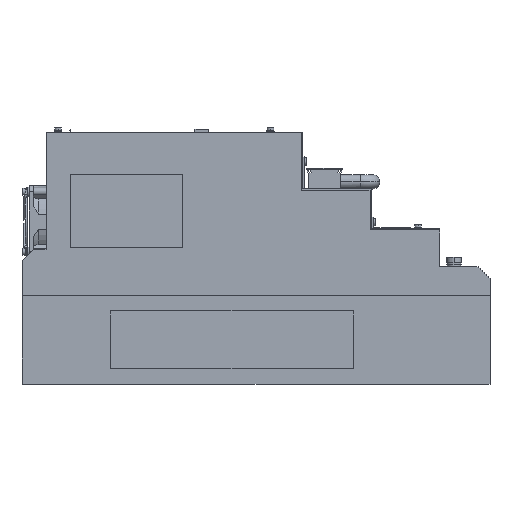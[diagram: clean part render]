
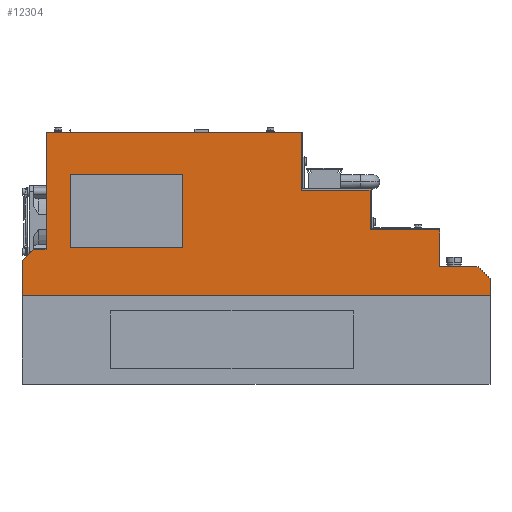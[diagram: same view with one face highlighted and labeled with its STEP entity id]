
A CAD part, left-side view. The second image highlights one B-rep face of the part: STEP entity #12304.
In plain terms, the highlighted planar face has unit normal (-1, 0, 0).
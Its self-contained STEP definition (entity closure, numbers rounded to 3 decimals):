
#2059 = CARTESIAN_POINT ( 'NONE',  ( -30., -340.5, 128.5 ) ) ;
#5751 = CARTESIAN_POINT ( 'NONE',  ( -30., -340.5, 98. ) ) ;
#6407 = DIRECTION ( 'NONE',  ( 0., 0., -1. ) ) ;
#6409 = VECTOR ( 'NONE', #6407, 1000. ) ;
#6412 = CARTESIAN_POINT ( 'NONE',  ( -30., -340.5, 612.55 ) ) ;
#6413 = LINE ( 'NONE', #6412, #6409 ) ;
#10174 = ORIENTED_EDGE ( 'NONE', *, *, #10685, .F. ) ;
#10176 = VERTEX_POINT ( 'NONE', #48753 ) ;
#10685 = EDGE_CURVE ( 'NONE', #10176, #31800, #49203, .T. ) ;
#10939 = EDGE_LOOP ( 'NONE', ( #10174, #31794, #30724, #15519 ) ) ;
#12304 = ADVANCED_FACE ( 'NONE', ( #50806, #50805 ), #50804, .F. ) ;
#13546 = ORIENTED_EDGE ( 'NONE', *, *, #13575, .T. ) ;
#13554 = VERTEX_POINT ( 'NONE', #58924 ) ;
#13564 = VERTEX_POINT ( 'NONE', #58916 ) ;
#13575 = EDGE_CURVE ( 'NONE', #13564, #13554, #58984, .T. ) ;
#14731 = EDGE_CURVE ( 'NONE', #55373, #13564, #59950, .T. ) ;
#14778 = EDGE_LOOP ( 'NONE', ( #14781, #13546, #31894, #31864, #31872, #31866, #31802, #31798, #31983, #31959, #31948, #31911, #40572, #36184 ) ) ;
#14781 = ORIENTED_EDGE ( 'NONE', *, *, #14731, .T. ) ;
#15329 = EDGE_CURVE ( 'NONE', #31800, #22922, #60568, .T. ) ;
#15519 = ORIENTED_EDGE ( 'NONE', *, *, #15329, .F. ) ;
#22212 = CARTESIAN_POINT ( 'NONE',  ( -30., -225.3, 210. ) ) ;
#22398 = DIRECTION ( 'NONE',  ( 0., -1., 0. ) ) ;
#22399 = VECTOR ( 'NONE', #22398, 1000. ) ;
#22400 = CARTESIAN_POINT ( 'NONE',  ( -30., -12.5, 210. ) ) ;
#22401 = LINE ( 'NONE', #22400, #22399 ) ;
#22408 = CARTESIAN_POINT ( 'NONE',  ( -30., -12.5, 210. ) ) ;
#22922 = VERTEX_POINT ( 'NONE', #66461 ) ;
#30724 = ORIENTED_EDGE ( 'NONE', *, *, #31749, .F. ) ;
#30871 = VERTEX_POINT ( 'NONE', #67580 ) ;
#31711 = VERTEX_POINT ( 'NONE', #67780 ) ;
#31749 = EDGE_CURVE ( 'NONE', #22922, #30871, #67851, .T. ) ;
#31794 = ORIENTED_EDGE ( 'NONE', *, *, #31797, .F. ) ;
#31797 = EDGE_CURVE ( 'NONE', #30871, #10176, #67906, .T. ) ;
#31798 = ORIENTED_EDGE ( 'NONE', *, *, #32011, .F. ) ;
#31800 = VERTEX_POINT ( 'NONE', #67899 ) ;
#31802 = ORIENTED_EDGE ( 'NONE', *, *, #31827, .F. ) ;
#31827 = EDGE_CURVE ( 'NONE', #31711, #31848, #67993, .T. ) ;
#31848 = VERTEX_POINT ( 'NONE', #68018 ) ;
#31863 = EDGE_CURVE ( 'NONE', #31895, #79304, #68065, .T. ) ;
#31864 = ORIENTED_EDGE ( 'NONE', *, *, #31863, .T. ) ;
#31866 = ORIENTED_EDGE ( 'NONE', *, *, #31867, .T. ) ;
#31867 = EDGE_CURVE ( 'NONE', #79816, #31848, #68055, .T. ) ;
#31872 = ORIENTED_EDGE ( 'NONE', *, *, #79855, .F. ) ;
#31894 = ORIENTED_EDGE ( 'NONE', *, *, #31903, .T. ) ;
#31895 = VERTEX_POINT ( 'NONE', #68122 ) ;
#31902 = VERTEX_POINT ( 'NONE', #68110 ) ;
#31903 = EDGE_CURVE ( 'NONE', #13554, #31895, #68109, .T. ) ;
#31905 = EDGE_CURVE ( 'NONE', #31902, #31929, #68103, .T. ) ;
#31911 = ORIENTED_EDGE ( 'NONE', *, *, #31905, .F. ) ;
#31929 = VERTEX_POINT ( 'NONE', #68184 ) ;
#31948 = ORIENTED_EDGE ( 'NONE', *, *, #31949, .T. ) ;
#31949 = EDGE_CURVE ( 'NONE', #31950, #31929, #68159, .T. ) ;
#31950 = VERTEX_POINT ( 'NONE', #68230 ) ;
#31959 = ORIENTED_EDGE ( 'NONE', *, *, #31966, .T. ) ;
#31966 = EDGE_CURVE ( 'NONE', #31988, #31950, #68197, .T. ) ;
#31982 = VERTEX_POINT ( 'NONE', #68231 ) ;
#31983 = ORIENTED_EDGE ( 'NONE', *, *, #31993, .F. ) ;
#31988 = VERTEX_POINT ( 'NONE', #68287 ) ;
#31993 = EDGE_CURVE ( 'NONE', #31988, #31982, #68285, .T. ) ;
#32011 = EDGE_CURVE ( 'NONE', #31982, #31711, #68314, .T. ) ;
#36184 = ORIENTED_EDGE ( 'NONE', *, *, #56405, .F. ) ;
#40572 = ORIENTED_EDGE ( 'NONE', *, *, #40599, .F. ) ;
#40599 = EDGE_CURVE ( 'NONE', #56280, #31902, #80861, .T. ) ;
#48753 = CARTESIAN_POINT ( 'NONE',  ( -30., -126.5, 114. ) ) ;
#49200 = DIRECTION ( 'NONE',  ( 0., 0., 1. ) ) ;
#49201 = VECTOR ( 'NONE', #49200, 1000. ) ;
#49202 = CARTESIAN_POINT ( 'NONE',  ( -30., -126.5, 114. ) ) ;
#49203 = LINE ( 'NONE', #49202, #49201 ) ;
#50800 = DIRECTION ( 'NONE',  ( 0., 1., 0. ) ) ;
#50801 = DIRECTION ( 'NONE',  ( 1., 0., 0. ) ) ;
#50802 = CARTESIAN_POINT ( 'NONE',  ( -30., -12.5, 612.55 ) ) ;
#50803 = AXIS2_PLACEMENT_3D ( 'NONE', #50802, #50801, #50800 ) ;
#50804 = PLANE ( 'NONE',  #50803 ) ;
#50805 = FACE_OUTER_BOUND ( 'NONE', #14778, .T. ) ;
#50806 = FACE_BOUND ( 'NONE', #10939, .T. ) ;
#53227 = DIRECTION ( 'NONE',  ( 0., 0., 1. ) ) ;
#55373 = VERTEX_POINT ( 'NONE', #2059 ) ;
#56280 = VERTEX_POINT ( 'NONE', #5751 ) ;
#56405 = EDGE_CURVE ( 'NONE', #55373, #56280, #6413, .T. ) ;
#58916 = CARTESIAN_POINT ( 'NONE',  ( -30., -282.5, 128.5 ) ) ;
#58924 = CARTESIAN_POINT ( 'NONE',  ( -30., -282.5, 161.5 ) ) ;
#58980 = DIRECTION ( 'NONE',  ( 0., 0., 1. ) ) ;
#58981 = VECTOR ( 'NONE', #58980, 1000. ) ;
#58982 = CARTESIAN_POINT ( 'NONE',  ( -30., -282.5, 128.5 ) ) ;
#58984 = LINE ( 'NONE', #58982, #58981 ) ;
#59950 = LINE ( 'NONE', #60018, #60017 ) ;
#60016 = DIRECTION ( 'NONE',  ( 0., 1., 0. ) ) ;
#60017 = VECTOR ( 'NONE', #60016, 1000. ) ;
#60018 = CARTESIAN_POINT ( 'NONE',  ( -30., -340.5, 128.5 ) ) ;
#60565 = DIRECTION ( 'NONE',  ( 0., 1., 0. ) ) ;
#60566 = VECTOR ( 'NONE', #60565, 1000. ) ;
#60567 = CARTESIAN_POINT ( 'NONE',  ( -30., -32.5, 175. ) ) ;
#60568 = LINE ( 'NONE', #60567, #60566 ) ;
#66461 = CARTESIAN_POINT ( 'NONE',  ( -30., -32.5, 175. ) ) ;
#67580 = CARTESIAN_POINT ( 'NONE',  ( -30., -32.5, 114. ) ) ;
#67617 = CARTESIAN_POINT ( 'NONE',  ( -30., -382.5, -394.722 ) ) ;
#67780 = CARTESIAN_POINT ( 'NONE',  ( -30., -2.5, 112.5 ) ) ;
#67848 = DIRECTION ( 'NONE',  ( 0., 0., -1. ) ) ;
#67849 = VECTOR ( 'NONE', #67848, 1000. ) ;
#67850 = CARTESIAN_POINT ( 'NONE',  ( -30., -32.5, 114. ) ) ;
#67851 = LINE ( 'NONE', #67850, #67849 ) ;
#67897 = VECTOR ( 'NONE', #53227, 1000. ) ;
#67899 = CARTESIAN_POINT ( 'NONE',  ( -30., -126.5, 175. ) ) ;
#67902 = DIRECTION ( 'NONE',  ( 0., -1., 0. ) ) ;
#67903 = VECTOR ( 'NONE', #67902, 1000. ) ;
#67905 = CARTESIAN_POINT ( 'NONE',  ( -30., -32.5, 114. ) ) ;
#67906 = LINE ( 'NONE', #67905, #67903 ) ;
#67990 = DIRECTION ( 'NONE',  ( 0., -1., 0. ) ) ;
#67991 = VECTOR ( 'NONE', #67990, 1000. ) ;
#67992 = CARTESIAN_POINT ( 'NONE',  ( -30., -12.5, 112.5 ) ) ;
#67993 = LINE ( 'NONE', #67992, #67991 ) ;
#68018 = CARTESIAN_POINT ( 'NONE',  ( -30., -12.5, 112.5 ) ) ;
#68052 = DIRECTION ( 'NONE',  ( 0., 0., -1. ) ) ;
#68053 = VECTOR ( 'NONE', #68052, 1000. ) ;
#68054 = CARTESIAN_POINT ( 'NONE',  ( -30., -12.5, 612.55 ) ) ;
#68055 = LINE ( 'NONE', #68054, #68053 ) ;
#68062 = DIRECTION ( 'NONE',  ( 0., 0., 1. ) ) ;
#68063 = VECTOR ( 'NONE', #68062, 1000. ) ;
#68064 = CARTESIAN_POINT ( 'NONE',  ( -30., -225.3, 161.5 ) ) ;
#68065 = LINE ( 'NONE', #68064, #68063 ) ;
#68096 = DIRECTION ( 'NONE',  ( 0., -0.707, -0.707 ) ) ;
#68097 = VECTOR ( 'NONE', #68096, 1000. ) ;
#68098 = CARTESIAN_POINT ( 'NONE',  ( -30., -382.5, 88. ) ) ;
#68103 = LINE ( 'NONE', #68098, #68097 ) ;
#68106 = DIRECTION ( 'NONE',  ( 0., 1., 0. ) ) ;
#68107 = VECTOR ( 'NONE', #68106, 1000. ) ;
#68108 = CARTESIAN_POINT ( 'NONE',  ( -30., -282.5, 161.5 ) ) ;
#68109 = LINE ( 'NONE', #68108, #68107 ) ;
#68110 = CARTESIAN_POINT ( 'NONE',  ( -30., -372.5, 98. ) ) ;
#68122 = CARTESIAN_POINT ( 'NONE',  ( -30., -225.3, 161.5 ) ) ;
#68159 = LINE ( 'NONE', #67617, #67897 ) ;
#68184 = CARTESIAN_POINT ( 'NONE',  ( -30., -382.5, 88. ) ) ;
#68197 = LINE ( 'NONE', #68265, #68264 ) ;
#68230 = CARTESIAN_POINT ( 'NONE',  ( -30., -382.5, 74. ) ) ;
#68231 = CARTESIAN_POINT ( 'NONE',  ( -30., 7.5, 102.5 ) ) ;
#68262 = DIRECTION ( 'NONE',  ( 0., -1., 0. ) ) ;
#68264 = VECTOR ( 'NONE', #68262, 1000. ) ;
#68265 = CARTESIAN_POINT ( 'NONE',  ( -30., -382.5, 74. ) ) ;
#68282 = DIRECTION ( 'NONE',  ( 0., 0., 1. ) ) ;
#68283 = VECTOR ( 'NONE', #68282, 1000. ) ;
#68284 = CARTESIAN_POINT ( 'NONE',  ( -30., 7.5, -394.722 ) ) ;
#68285 = LINE ( 'NONE', #68284, #68283 ) ;
#68287 = CARTESIAN_POINT ( 'NONE',  ( -30., 7.5, 74. ) ) ;
#68311 = DIRECTION ( 'NONE',  ( 0., -0.707, 0.707 ) ) ;
#68312 = VECTOR ( 'NONE', #68311, 1000. ) ;
#68313 = CARTESIAN_POINT ( 'NONE',  ( -30., 7.5, 102.5 ) ) ;
#68314 = LINE ( 'NONE', #68313, #68312 ) ;
#79304 = VERTEX_POINT ( 'NONE', #22212 ) ;
#79816 = VERTEX_POINT ( 'NONE', #22408 ) ;
#79855 = EDGE_CURVE ( 'NONE', #79816, #79304, #22401, .T. ) ;
#80858 = DIRECTION ( 'NONE',  ( 0., -1., 0. ) ) ;
#80859 = VECTOR ( 'NONE', #80858, 1000. ) ;
#80860 = CARTESIAN_POINT ( 'NONE',  ( -30., -340.5, 98. ) ) ;
#80861 = LINE ( 'NONE', #80860, #80859 ) ;
